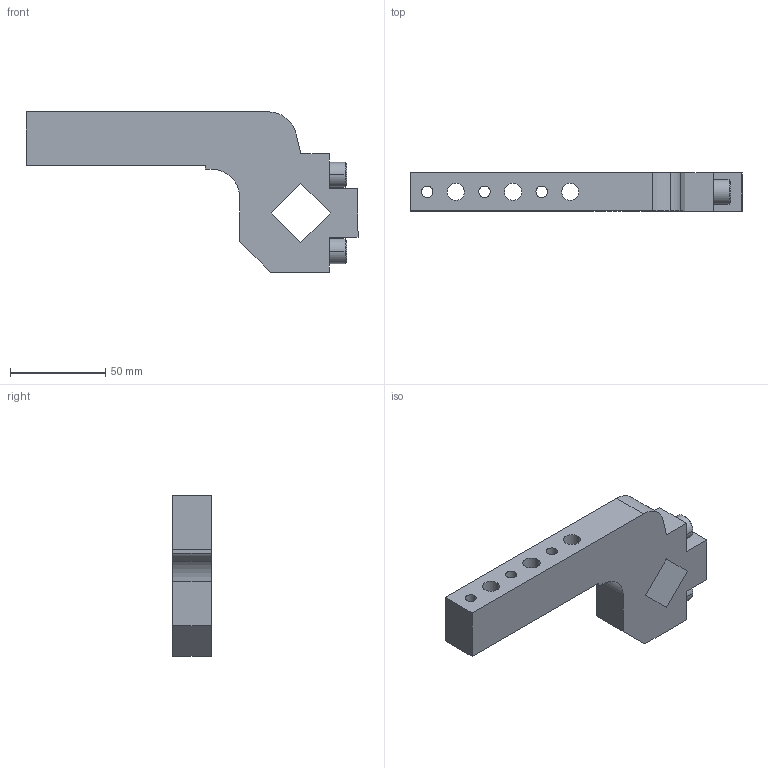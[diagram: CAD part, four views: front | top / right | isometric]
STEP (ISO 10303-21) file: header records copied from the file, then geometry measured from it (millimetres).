
FILE_DESCRIPTION((''),'2;1');
FILE_NAME('S:\Matthew\Step Files\XM Clamp Arms\XJ63-01.stp','2006-06-28T08:12:57',('Matthew'),(''),'Autodesk Inventor 8','Autodesk Inventor 8','');
FILE_SCHEMA(('AUTOMOTIVE_DESIGN { 1 0 10303 214 1 1 1 1 }'));
Length unit declared in the file: millimetre
Products named in the file (1): XJ63-01
Bounding box: 174 x 20 x 84 mm (x, y, z)
Volume: 125147.6 mm3; surface area: 28752.1 mm2
Topology: 1 solids, 1 shells, 47 faces, 125 edges, 82 vertices
Faces by surface type: plane 22, cylinder 18, bspline 5, cone 2
Entity records: 1574 total; most frequent: CARTESIAN_POINT 326, DIRECTION 255, ORIENTED_EDGE 250, EDGE_CURVE 125, AXIS2_PLACEMENT_3D 87, VERTEX_POINT 82, VECTOR 81, LINE 81
